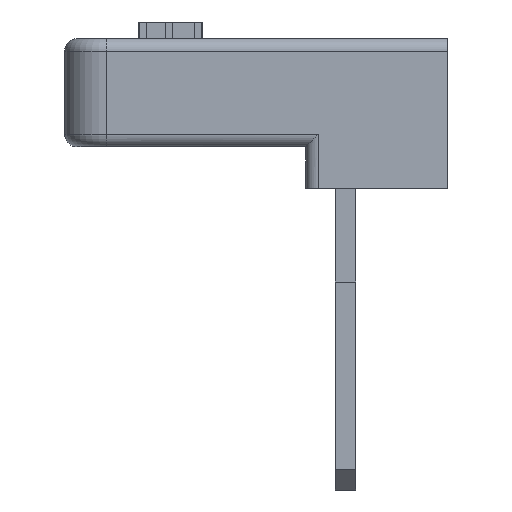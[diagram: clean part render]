
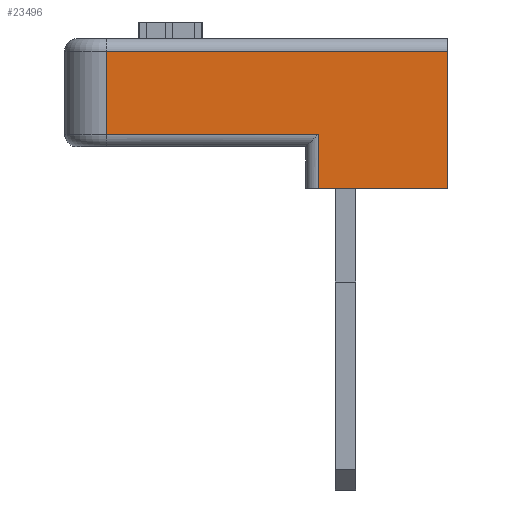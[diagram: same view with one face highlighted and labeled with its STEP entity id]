
A CAD part, left-side view. The second image highlights one B-rep face of the part: STEP entity #23496.
In plain terms, the highlighted planar face has unit normal (-1, 0, 0).
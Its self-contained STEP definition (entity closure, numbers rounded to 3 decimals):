
#251 = DIRECTION ( 'NONE',  ( 0., -1., 0. ) ) ;
#286 = EDGE_CURVE ( 'NONE', #8755, #14995, #25413, .T. ) ;
#571 = DIRECTION ( 'NONE',  ( 0., 0., -1. ) ) ;
#1563 = CARTESIAN_POINT ( 'NONE',  ( 0., 3.1, 7.25 ) ) ;
#1757 = CARTESIAN_POINT ( 'NONE',  ( 0., 0., 10.85 ) ) ;
#1918 = EDGE_CURVE ( 'NONE', #14995, #11241, #13757, .T. ) ;
#2587 = FACE_OUTER_BOUND ( 'NONE', #3078, .T. ) ;
#3078 = EDGE_LOOP ( 'NONE', ( #13427, #12968, #11970, #24827, #6838, #15916 ) ) ;
#3529 = EDGE_CURVE ( 'NONE', #6311, #8755, #4181, .T. ) ;
#3657 = VECTOR ( 'NONE', #571, 1000. ) ;
#4181 = LINE ( 'NONE', #17662, #4365 ) ;
#4365 = VECTOR ( 'NONE', #19868, 1000. ) ;
#4735 = CARTESIAN_POINT ( 'NONE',  ( 0., 8.2, 10.55 ) ) ;
#4875 = CARTESIAN_POINT ( 'NONE',  ( 0., 8.2, 10.85 ) ) ;
#5605 = CARTESIAN_POINT ( 'NONE',  ( 0., 9.2, 7.25 ) ) ;
#6311 = VERTEX_POINT ( 'NONE', #14014 ) ;
#6469 = CARTESIAN_POINT ( 'NONE',  ( 0., 9.2, 10.85 ) ) ;
#6563 = VECTOR ( 'NONE', #7842, 1000. ) ;
#6838 = ORIENTED_EDGE ( 'NONE', *, *, #286, .T. ) ;
#7696 = EDGE_CURVE ( 'NONE', #10525, #6311, #8760, .T. ) ;
#7842 = DIRECTION ( 'NONE',  ( 0., 0., -1. ) ) ;
#7875 = CARTESIAN_POINT ( 'NONE',  ( 0., 3.1, 7.25 ) ) ;
#8091 = LINE ( 'NONE', #1757, #6563 ) ;
#8291 = DIRECTION ( 'NONE',  ( 1., 0., 0. ) ) ;
#8444 = EDGE_CURVE ( 'NONE', #13160, #10525, #19495, .T. ) ;
#8755 = VERTEX_POINT ( 'NONE', #13482 ) ;
#8760 = LINE ( 'NONE', #4875, #3657 ) ;
#10225 = PLANE ( 'NONE',  #17388 ) ;
#10525 = VERTEX_POINT ( 'NONE', #4735 ) ;
#11241 = VERTEX_POINT ( 'NONE', #21817 ) ;
#11970 = ORIENTED_EDGE ( 'NONE', *, *, #7696, .T. ) ;
#12911 = CARTESIAN_POINT ( 'NONE',  ( 0., 0., 10.55 ) ) ;
#12968 = ORIENTED_EDGE ( 'NONE', *, *, #8444, .T. ) ;
#13051 = VECTOR ( 'NONE', #251, 1000. ) ;
#13160 = VERTEX_POINT ( 'NONE', #12911 ) ;
#13427 = ORIENTED_EDGE ( 'NONE', *, *, #21558, .F. ) ;
#13482 = CARTESIAN_POINT ( 'NONE',  ( 0., 3.1, 8.55 ) ) ;
#13648 = CARTESIAN_POINT ( 'NONE',  ( 0., 9.2, 10.55 ) ) ;
#13757 = LINE ( 'NONE', #5605, #13051 ) ;
#14014 = CARTESIAN_POINT ( 'NONE',  ( 0., 8.2, 8.55 ) ) ;
#14824 = VECTOR ( 'NONE', #19725, 1000. ) ;
#14995 = VERTEX_POINT ( 'NONE', #7875 ) ;
#15916 = ORIENTED_EDGE ( 'NONE', *, *, #1918, .T. ) ;
#16208 = DIRECTION ( 'NONE',  ( 0., 1., 0. ) ) ;
#16519 = VECTOR ( 'NONE', #25313, 1000. ) ;
#17388 = AXIS2_PLACEMENT_3D ( 'NONE', #6469, #8291, #16208 ) ;
#17662 = CARTESIAN_POINT ( 'NONE',  ( 0., 9.2, 8.55 ) ) ;
#19495 = LINE ( 'NONE', #13648, #16519 ) ;
#19725 = DIRECTION ( 'NONE',  ( 0., 0., -1. ) ) ;
#19868 = DIRECTION ( 'NONE',  ( 0., -1., 0. ) ) ;
#21558 = EDGE_CURVE ( 'NONE', #13160, #11241, #8091, .T. ) ;
#21817 = CARTESIAN_POINT ( 'NONE',  ( 0., 0., 7.25 ) ) ;
#23496 = ADVANCED_FACE ( 'NONE', ( #2587 ), #10225, .F. ) ;
#24827 = ORIENTED_EDGE ( 'NONE', *, *, #3529, .T. ) ;
#25313 = DIRECTION ( 'NONE',  ( 0., 1., 0. ) ) ;
#25413 = LINE ( 'NONE', #1563, #14824 ) ;
